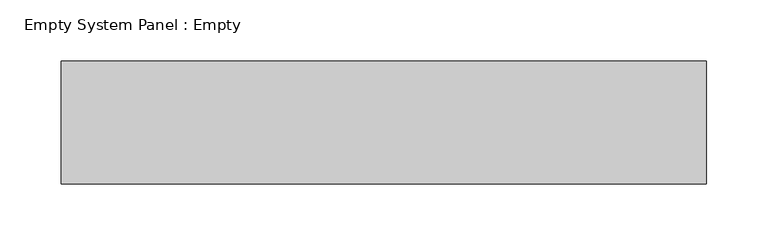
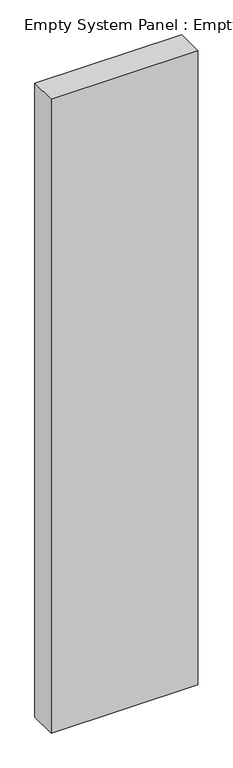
"""IFC4 building model written with IfcOpenShell, lengths in millimetres: plate geometry, Empty System Panel : Empty."""

from ifc_helpers import new_model, si_unit, origin, origin_with_axes, place, context, project, spatial, polyline, outline, extrude, source, transform, mapped, element, save


def empty_system_panel_empty_22caf246(model_context):
    return source(origin(), model_context, "Body", "SweptSolid", [
        extrude(outline(polyline([(262.7500001, 50.0), (-262.7500001, 50.0), (-262.7500001, 150.0), (262.7500001, 150.0), (262.7500001, 50.0)])), origin_with_axes(), (0.0, 0.0, 1.0), 2400.0),
    ])


if __name__ == "__main__":
    model = new_model("IFC4")
    model_context = context("Model", 3, world=origin())
    ifc_project = project(units=[si_unit("LENGTHUNIT", "METRE", prefix="MILLI")], contexts=[model_context])
    site = spatial("IfcSite", under=ifc_project)
    building = spatial("IfcBuilding", under=site)
    placement = place(None, origin())
    empty_system_panel_empty_shape = empty_system_panel_empty_22caf246(model_context)
    element("IfcPlate", 1, ObjectType="Empty System Panel : Empty", at=placement, inside=building, context=model_context, shape_type="MappedRepresentation", body=[
        mapped(empty_system_panel_empty_shape, transform((0.0, 0.0, 0.0), x_axis=(1.0, 0.0, 0.0), y_axis=(0.0, 1.0, 0.0), z_axis=(0.0, 0.0, 1.0))),
    ])
    save(model, "model.ifc")
